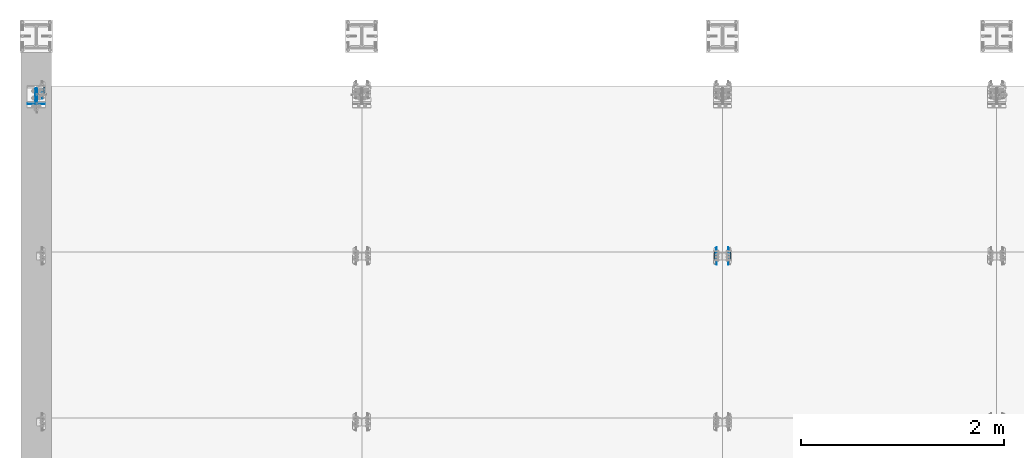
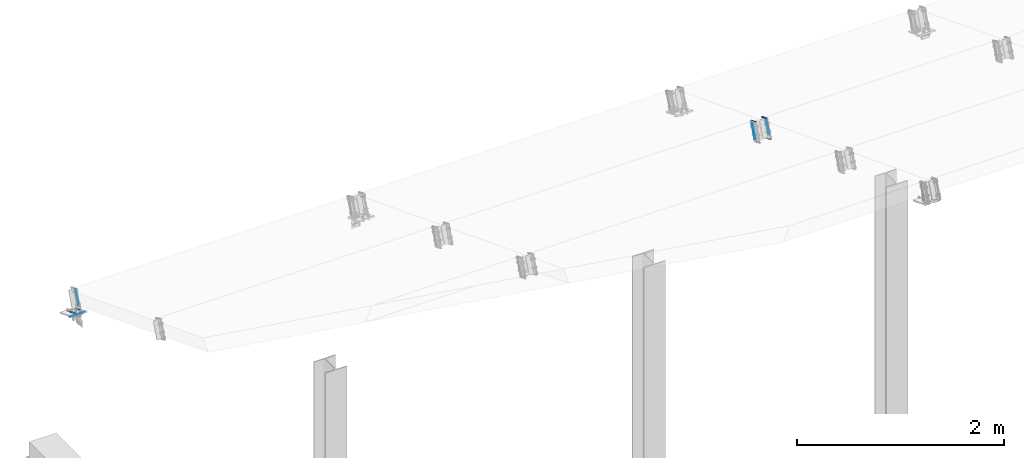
# One storey, part 14 of 72: 21 fasteners.
"""IFC4 building model written with IfcOpenShell, lengths in metres."""

from ifc_helpers import new_model, si_unit, frame, origin_with_axes, place, context, project, spatial, polyline, outline, extrude, type_object, element, save


model = new_model("IFC4")

# Units and contexts
model_context = context("Model", 3, precision=1e-05, world=origin_with_axes())
ifc_project = project(units=[si_unit("LENGTHUNIT", "METRE"), si_unit("AREAUNIT", "SQUARE_METRE"), si_unit("VOLUMEUNIT", "CUBIC_METRE"), si_unit("MASSUNIT", "GRAM", prefix="KILO"), si_unit("TIMEUNIT", "SECOND"), si_unit("PLANEANGLEUNIT", "RADIAN"), si_unit("SOLIDANGLEUNIT", "STERADIAN"), si_unit("THERMODYNAMICTEMPERATUREUNIT", "DEGREE_CELSIUS")], contexts=[model_context])

# Site, building, storey
placement_1 = place(None, origin_with_axes())
site = spatial("IfcSite", under=ifc_project, at=placement_1, Name="Italia", CompositionType="ELEMENT")
building = spatial("IfcBuilding", under=site, at=placement_1, Name="Uffici", CompositionType="ELEMENT")
storey = spatial("IfcBuildingStorey", under=building, at=placement_1, Name="Storey 0", CompositionType="ELEMENT", Elevation=0.0)

# Fasteners
fastener_type_1 = type_object("IfcFastenerType", Name="Collegamento -018_-017", PredefinedType="WELD")
placement_2 = place(placement_1, origin_with_axes())
fastener_1_placement = place(placement_2, origin_with_axes())
element("IfcFastener", 1, at=fastener_1_placement, inside=storey, type_object=fastener_type_1, Name="Collegamento -018_-017", context=model_context, shape_type="SweptSolid", body=[
    extrude(outline(polyline([(0.0, 0.0), (-0.00717354, 0.00695825), (0.0, 0.00695825), (0.0, 0.0)])), frame((6.68005, 3.26833, 5.95076), z_axis=(0.0, -0.361461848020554, -0.932386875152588), x_axis=(1.0, 0.0, 0.0)), (0.0, 0.0, 1.0), 0.1591),
])
fastener_type_2 = type_object("IfcFastenerType", Name="Collegamento -018_-017", PredefinedType="WELD")
fastener_2_placement = place(placement_2, origin_with_axes())
element("IfcFastener", 2, at=fastener_2_placement, inside=storey, type_object=fastener_type_2, Name="Collegamento -018_-017", context=model_context, shape_type="SweptSolid", body=[
    extrude(outline(polyline([(0.0, 0.0), (0.00717354, -0.00695825), (0.0, -0.00695825), (0.0, 0.0)])), frame((6.68005, 3.19271, 5.80943), z_axis=(0.0, 0.361460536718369, 0.932387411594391), x_axis=(-1.0, 0.0, 0.0)), (0.0, 0.0, 1.0), 0.1591),
])
fastener_type_3 = type_object("IfcFastenerType", Name="Collegamento -018_-017", PredefinedType="WELD")
fastener_3_placement = place(placement_2, origin_with_axes())
element("IfcFastener", 3, at=fastener_3_placement, inside=storey, type_object=fastener_type_3, Name="Collegamento -018_-017", context=model_context, shape_type="SweptSolid", body=[
    extrude(outline(polyline([(0.0, 0.0), (-0.00717354, 0.00695825), (0.0, 0.00695825), (0.0, 0.0)])), frame((6.68005, 3.26833, 5.95076), z_axis=(0.0, -0.361461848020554, -0.932386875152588), x_axis=(1.0, 0.0, 0.0)), (0.0, 0.0, 1.0), 0.1591),
])
fastener_type_4 = type_object("IfcFastenerType", Name="Collegamento -018_-017", PredefinedType="WELD")
fastener_4_placement = place(placement_2, origin_with_axes())
element("IfcFastener", 4, at=fastener_4_placement, inside=storey, type_object=fastener_type_4, Name="Collegamento -018_-017", context=model_context, shape_type="SweptSolid", body=[
    extrude(outline(polyline([(0.0, 0.0), (0.00717354, -0.00695825), (0.0, -0.00695825), (0.0, 0.0)])), frame((6.68005, 3.19271, 5.80943), z_axis=(0.0, 0.361460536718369, 0.932387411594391), x_axis=(-1.0, 0.0, 0.0)), (0.0, 0.0, 1.0), 0.1591),
])
fastener_type_5 = type_object("IfcFastenerType", Name="Collegamento -018_-017", PredefinedType="WELD")
fastener_5_placement = place(placement_2, origin_with_axes())
element("IfcFastener", 5, at=fastener_5_placement, inside=storey, type_object=fastener_type_5, Name="Collegamento -018_-017", context=model_context, shape_type="SweptSolid", body=[
    extrude(outline(polyline([(0.0, 0.0), (0.00937366, -0.00909185), (0.0, -0.00909185), (0.0, 0.0)])), frame((6.70005, 3.14377, 5.79479), z_axis=(0.0, 0.932386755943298, -0.36146205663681), x_axis=(-1.0, 0.0, 0.0)), (0.0, 0.0, 1.0), 0.1001),
])
fastener_type_6 = type_object("IfcFastenerType", Name="Collegamento -018_-017", PredefinedType="WELD")
fastener_6_placement = place(placement_2, origin_with_axes())
element("IfcFastener", 6, at=fastener_6_placement, inside=storey, type_object=fastener_type_6, Name="Collegamento -018_-017", context=model_context, shape_type="SweptSolid", body=[
    extrude(outline(polyline([(0.0, 0.0), (-0.00937366, 0.00909233), (0.0, 0.00909233), (0.0, 0.0)])), frame((6.70005, 3.31009, 5.94687), z_axis=(0.0, -0.932386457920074, 0.361462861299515), x_axis=(1.0, 0.0, 0.0)), (0.0, 0.0, 1.0), 0.1001),
])
fastener_type_7 = type_object("IfcFastenerType", Name="Collegamento -018_-019", PredefinedType="WELD")
fastener_7_placement = place(placement_2, origin_with_axes())
element("IfcFastener", 7, at=fastener_7_placement, inside=storey, type_object=fastener_type_7, Name="Collegamento -018_-019", context=model_context, shape_type="SweptSolid", body=[
    extrude(outline(polyline([(0.0, 0.0), (-0.00717354, 0.00695801), (0.0, 0.00695801), (0.0, 0.0)])), frame((6.82995, 3.21082, 5.80241), z_axis=(0.0, 0.361461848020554, 0.932386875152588), x_axis=(-1.0, 0.0, 0.0)), (0.0, 0.0, 1.0), 0.1591),
])
fastener_type_8 = type_object("IfcFastenerType", Name="Collegamento -018_-019", PredefinedType="WELD")
fastener_8_placement = place(placement_2, origin_with_axes())
element("IfcFastener", 8, at=fastener_8_placement, inside=storey, type_object=fastener_type_8, Name="Collegamento -018_-019", context=model_context, shape_type="SweptSolid", body=[
    extrude(outline(polyline([(0.0, 0.0), (0.00717354, -0.00695777), (0.0, -0.00695777), (0.0, 0.0)])), frame((6.82995, 3.25022, 5.95777), z_axis=(0.0, -0.361460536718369, -0.932387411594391), x_axis=(1.0, 0.0, 0.0)), (0.0, 0.0, 1.0), 0.1591),
])
fastener_type_9 = type_object("IfcFastenerType", Name="Collegamento -018_-019", PredefinedType="WELD")
fastener_9_placement = place(placement_2, origin_with_axes())
element("IfcFastener", 9, at=fastener_9_placement, inside=storey, type_object=fastener_type_9, Name="Collegamento -018_-019", context=model_context, shape_type="SweptSolid", body=[
    extrude(outline(polyline([(0.0, 0.0), (-0.00717354, 0.00695801), (0.0, 0.00695801), (0.0, 0.0)])), frame((6.82995, 3.21082, 5.80241), z_axis=(0.0, 0.361461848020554, 0.932386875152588), x_axis=(-1.0, 0.0, 0.0)), (0.0, 0.0, 1.0), 0.1591),
])
fastener_type_10 = type_object("IfcFastenerType", Name="Collegamento -018_-019", PredefinedType="WELD")
fastener_10_placement = place(placement_2, origin_with_axes())
element("IfcFastener", 10, at=fastener_10_placement, inside=storey, type_object=fastener_type_10, Name="Collegamento -018_-019", context=model_context, shape_type="SweptSolid", body=[
    extrude(outline(polyline([(0.0, 0.0), (0.00717354, -0.00695777), (0.0, -0.00695777), (0.0, 0.0)])), frame((6.82995, 3.25022, 5.95777), z_axis=(0.0, -0.361460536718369, -0.932387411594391), x_axis=(1.0, 0.0, 0.0)), (0.0, 0.0, 1.0), 0.1591),
])
fastener_type_11 = type_object("IfcFastenerType", Name="Collegamento -018_-019", PredefinedType="WELD")
fastener_11_placement = place(placement_2, origin_with_axes())
element("IfcFastener", 11, at=fastener_11_placement, inside=storey, type_object=fastener_type_11, Name="Collegamento -018_-019", context=model_context, shape_type="SweptSolid", body=[
    extrude(outline(polyline([(0.0, 0.0), (0.00937366, -0.00909185), (0.0, -0.00909185), (0.0, 0.0)])), frame((6.80995, 3.2371, 5.75861), z_axis=(0.0, -0.932386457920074, 0.361462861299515), x_axis=(1.0, 0.0, 0.0)), (0.0, 0.0, 1.0), 0.1001),
])
fastener_type_12 = type_object("IfcFastenerType", Name="Collegamento -018_-019", PredefinedType="WELD")
fastener_12_placement = place(placement_2, origin_with_axes())
element("IfcFastener", 12, at=fastener_12_placement, inside=storey, type_object=fastener_type_12, Name="Collegamento -018_-019", context=model_context, shape_type="SweptSolid", body=[
    extrude(outline(polyline([(0.0, 0.0), (-0.00937366, 0.00909233), (0.0, 0.00909233), (0.0, 0.0)])), frame((6.80995, 3.21675, 5.98305), z_axis=(0.0, 0.932386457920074, -0.361462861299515), x_axis=(-1.0, 0.0, 0.0)), (0.0, 0.0, 1.0), 0.1001),
])
fastener_type_13 = type_object("IfcFastenerType", Name="Collegamento 0206_0106", PredefinedType="WELD")
fastener_13_placement = place(placement_2, origin_with_axes())
element("IfcFastener", 13, at=fastener_13_placement, inside=storey, type_object=fastener_type_13, Name="Collegamento 0206_0106", context=model_context, shape_type="SweptSolid", body=[
    extrude(outline(polyline([(0.0, 0.0), (-0.00443697, -0.0104866), (-0.00739193, -0.00286627), (0.0, 0.0)])), frame((0.08205, 4.72167, 5.15715), z_axis=(-1.0, 0.0, 0.0), x_axis=(0.0, -1.0, 0.0)), (0.0, 0.0, 1.0), 0.1641),
])
fastener_type_14 = type_object("IfcFastenerType", Name="Collegamento 0206_0106", PredefinedType="WELD")
fastener_14_placement = place(placement_2, origin_with_axes())
element("IfcFastener", 14, at=fastener_14_placement, inside=storey, type_object=fastener_type_14, Name="Collegamento 0206_0106", context=model_context, shape_type="SweptSolid", body=[
    extrude(outline(polyline([(0.0, 0.0), (-0.00792816, -0.00817347), (-0.00792816, 0.0), (0.0, 0.0)])), frame((0.0108782, 4.87658, 5.09709), z_axis=(0.0, -0.932360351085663, 0.361530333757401), x_axis=(1.0, 0.0, 0.0)), (0.0, 0.0, 1.0), 0.133127),
])
fastener_type_15 = type_object("IfcFastenerType", Name="Collegamento 0206_0106", PredefinedType="WELD")
fastener_15_placement = place(placement_2, origin_with_axes())
element("IfcFastener", 15, at=fastener_15_placement, inside=storey, type_object=fastener_type_15, Name="Collegamento 0206_0106", context=model_context, shape_type="SweptSolid", body=[
    extrude(outline(polyline([(0.0, 0.0), (-0.00792816, -0.00817347), (-0.00792816, 0.0), (0.0, 0.0)])), frame((-0.0108782, 4.75246, 5.14522), z_axis=(0.0, 0.932360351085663, -0.361530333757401), x_axis=(-1.0, 0.0, 0.0)), (0.0, 0.0, 1.0), 0.133127),
])
fastener_type_16 = type_object("IfcFastenerType", Name="Collegamento 0206_0106", PredefinedType="WELD")
fastener_16_placement = place(placement_2, origin_with_axes())
element("IfcFastener", 16, at=fastener_16_placement, inside=storey, type_object=fastener_type_16, Name="Collegamento 0206_0106", context=model_context, shape_type="SweptSolid", body=[
    extrude(outline(polyline([(0.0, 0.0), (-0.00443697, -0.0104866), (-0.00739193, -0.00286627), (0.0, 0.0)])), frame((0.08205, 4.72167, 5.15715), z_axis=(-1.0, 0.0, 0.0), x_axis=(0.0, -1.0, 0.0)), (0.0, 0.0, 1.0), 0.1641),
])
fastener_type_17 = type_object("IfcFastenerType", Name="Collegamento 0206_0106", PredefinedType="WELD")
fastener_17_placement = place(placement_2, origin_with_axes())
element("IfcFastener", 17, at=fastener_17_placement, inside=storey, type_object=fastener_type_17, Name="Collegamento 0206_0106", context=model_context, shape_type="SweptSolid", body=[
    extrude(outline(polyline([(0.0, 0.0), (-0.00792816, -0.00817347), (-0.00792816, 0.0), (0.0, 0.0)])), frame((0.0108782, 4.87658, 5.09709), z_axis=(0.0, -0.932360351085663, 0.361530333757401), x_axis=(1.0, 0.0, 0.0)), (0.0, 0.0, 1.0), 0.133127),
])
fastener_type_18 = type_object("IfcFastenerType", Name="Collegamento 0206_0106", PredefinedType="WELD")
fastener_18_placement = place(placement_2, origin_with_axes())
element("IfcFastener", 18, at=fastener_18_placement, inside=storey, type_object=fastener_type_18, Name="Collegamento 0206_0106", context=model_context, shape_type="SweptSolid", body=[
    extrude(outline(polyline([(0.0, 0.0), (-0.00792816, -0.00817347), (-0.00792816, 0.0), (0.0, 0.0)])), frame((-0.0108782, 4.75246, 5.14522), z_axis=(0.0, 0.932360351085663, -0.361530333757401), x_axis=(-1.0, 0.0, 0.0)), (0.0, 0.0, 1.0), 0.133127),
])
fastener_type_19 = type_object("IfcFastenerType", Name="Collegamento 0206_0207", PredefinedType="WELD")
fastener_19_placement = place(placement_2, origin_with_axes())
element("IfcFastener", 19, at=fastener_19_placement, inside=storey, type_object=fastener_type_19, Name="Collegamento 0206_0207", context=model_context, shape_type="SweptSolid", body=[
    extrude(outline(polyline([(0.0, 0.0), (0.00717336, -0.00695801), (0.0, -0.00695801), (0.0, 0.0)])), frame((0.07495, 4.88356, 5.32444), z_axis=(0.0, -0.361463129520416, -0.93238639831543), x_axis=(1.0, 0.0, 0.0)), (0.0, 0.0, 1.0), 0.1591),
])
fastener_type_20 = type_object("IfcFastenerType", Name="Collegamento 0206_0207", PredefinedType="WELD")
fastener_20_placement = place(placement_2, origin_with_axes())
element("IfcFastener", 20, at=fastener_20_placement, inside=storey, type_object=fastener_type_20, Name="Collegamento 0206_0207", context=model_context, shape_type="SweptSolid", body=[
    extrude(outline(polyline([(0.0, 0.0), (0.00717336, -0.00695801), (0.0, -0.00695801), (0.0, 0.0)])), frame((0.07495, 4.88356, 5.32444), z_axis=(0.0, -0.361463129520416, -0.93238639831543), x_axis=(1.0, 0.0, 0.0)), (0.0, 0.0, 1.0), 0.1591),
])
fastener_type_21 = type_object("IfcFastenerType", Name="Collegamento 0206_0207", PredefinedType="WELD")
fastener_21_placement = place(placement_2, origin_with_axes())
element("IfcFastener", 21, at=fastener_21_placement, inside=storey, type_object=fastener_type_21, Name="Collegamento 0206_0207", context=model_context, shape_type="SweptSolid", body=[
    extrude(outline(polyline([(0.0, 0.0), (0.00937336, -0.00909233), (0.0, -0.00909233), (0.0, 0.0)])), frame((0.05495, 4.87046, 5.12533), z_axis=(0.0, -0.932387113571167, 0.361461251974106), x_axis=(1.0, 0.0, 0.0)), (0.0, 0.0, 1.0), 0.1001),
])

save(model, "model.ifc")
